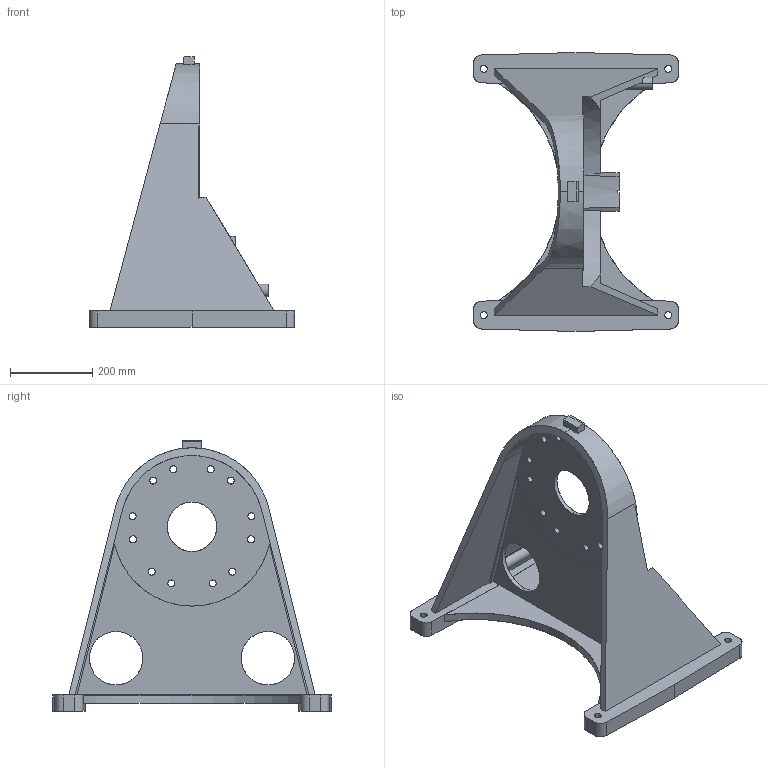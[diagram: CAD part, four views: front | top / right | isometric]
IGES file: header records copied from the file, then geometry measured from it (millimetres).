
Start section: SolidWorks IGES FILE using analytic representation for surfaces
Global section: file name: L:\Projekt\ABB Robotics\P685 PaintRobots2006 CAD-Models\CAD-Underlag IRB5500 TEMPO\SW2004\060711\Left\EngineSaveZip\iges\joints_links\IRB5500_12_T00F71B41V31H51_rev1_1.igs; native system: SolidWorks 2004 by SolidWorks Corporation; preprocessor: Version 5.3; author: joer; date: 060901.140216; units: millimetre
Bounding box: 500 x 680 x 660 mm (x, y, z)
Surface area: 1438155.8 mm2 (no closed solid volume)
Topology: 0 solids, 0 shells, 127 faces, 3221 edges, 3221 vertices
Faces by surface type: revolution 66, bspline 61
